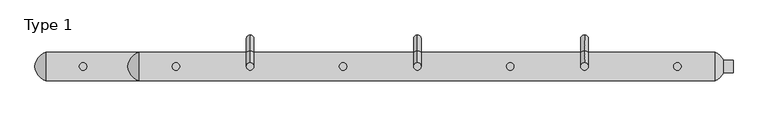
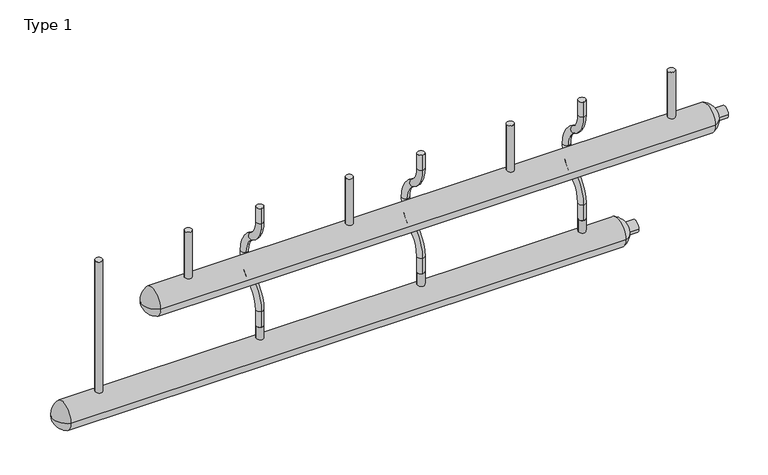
"""IFC4 building model written with IfcOpenShell, lengths in millimetres: proxy geometry, Collecteurs : Type 1."""

from ifc_helpers import new_model, si_unit, point, frame, frame_2d, origin, place, context, project, spatial, circle_curve, ellipse_curve, trimmed, segment, composite_curve, outline, extrude, source, transform, mapped, element, save
from ifc_brep_helpers import plane_surface, cylinder_surface, revolved_surface, advanced_brep


def type_1_87a1617b(model_context):
    return source(origin(), model_context, "Body", "SolidModel", [
        advanced_brep(
        [(-1131.9681284, 295.0, 950.0), (-1131.9681284, 255.0, 950.0), (-1131.9681284, 295.0, 1040.1923789), (-1131.9681284, 255.0, 1040.1923789), (-1131.9681284, 340.0, 1187.4166975), (-1131.9681284, 360.0, 1152.7756814), (-1131.9681284, 405.0, 1300.0), (-1131.9681284, 445.0, 1300.0), (-1131.9681284, 340.0, 1412.5833025), (-1131.9681284, 360.0, 1447.2243186), (-1131.9681284, 255.0, 1559.8076211), (-1131.9681284, 295.0, 1559.8076211), (-1131.9681284, 295.0, 1650.0), (-1131.9681284, 255.0, 1650.0)],
        [
            (0, 1, circle_curve(frame((-1131.9681284, 275.0, 950.0), z_axis=(0.0, 0.0, -1.0), x_axis=(0.0, -1.0, 0.0)), 20.0)),
            (1, 0, circle_curve(frame((-1131.9681284, 275.0, 950.0), z_axis=(0.0, 0.0, -1.0), x_axis=(0.0, -1.0, 0.0)), 20.0)),
            (0, 2),
            (2, 3, circle_curve(frame((-1131.9681284, 275.0, 1040.1923789), z_axis=(0.0, 0.0, -1.0), x_axis=(0.0, -1.0, 0.0)), 20.0)),
            (3, 1),
            (3, 2, circle_curve(frame((-1131.9681284, 275.0, 1040.1923789), z_axis=(0.0, 0.0, -1.0), x_axis=(0.0, -1.0, 0.0)), 20.0)),
            (4, 3, circle_curve(frame((-1131.9681284, 425.0, 1040.1923789), z_axis=(1.0, 0.0, 0.0), x_axis=(0.0, -1.0, 0.0)), 170.0)),
            (2, 5, circle_curve(frame((-1131.9681284, 425.0, 1040.1923789), z_axis=(-1.0, 0.0, 0.0), x_axis=(0.0, -1.0, 0.0)), 130.0)),
            (5, 4, circle_curve(frame((-1131.9681284, 350.0, 1170.0961894), z_axis=(0.0, -0.8660254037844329, -0.5000000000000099), x_axis=(0.0, -0.5000000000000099, 0.8660254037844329)), 20.0)),
            (4, 5, circle_curve(frame((-1131.9681284, 350.0, 1170.0961894), z_axis=(0.0, -0.8660254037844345, -0.5000000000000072), x_axis=(0.0, -0.5000000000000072, 0.8660254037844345)), 20.0)),
            (6, 4, circle_curve(frame((-1131.9681284, 275.0, 1300.0), z_axis=(-1.0, 0.0, 0.0), x_axis=(0.0, 0.4999999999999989, -0.8660254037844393)), 130.0)),
            (5, 7, circle_curve(frame((-1131.9681284, 275.0, 1300.0), z_axis=(1.0, 0.0, 0.0), x_axis=(0.0, 0.4999999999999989, -0.8660254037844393)), 170.0)),
            (7, 6, circle_curve(frame((-1131.9681284, 425.0, 1300.0), z_axis=(0.0, 0.0, -1.0), x_axis=(0.0, -1.0, 0.0)), 20.0)),
            (6, 7, circle_curve(frame((-1131.9681284, 425.0, 1300.0), z_axis=(0.0, 0.0, -1.0), x_axis=(0.0, -1.0, 0.0)), 20.0)),
            (8, 6, circle_curve(frame((-1131.9681284, 275.0, 1300.0), z_axis=(-1.0, 0.0, 0.0), x_axis=(0.0, 1.0, 0.0)), 130.0)),
            (7, 9, circle_curve(frame((-1131.9681284, 275.0, 1300.0), z_axis=(1.0, 0.0, 0.0), x_axis=(0.0, 1.0, 0.0)), 170.0)),
            (9, 8, circle_curve(frame((-1131.9681284, 350.0, 1429.9038106), z_axis=(0.0, 0.8660254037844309, -0.5000000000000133), x_axis=(0.0, -0.5000000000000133, -0.8660254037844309)), 20.0)),
            (8, 9, circle_curve(frame((-1131.9681284, 350.0, 1429.9038106), z_axis=(0.0, 0.8660254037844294, -0.500000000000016), x_axis=(0.0, -0.500000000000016, -0.8660254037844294)), 20.0)),
            (10, 8, circle_curve(frame((-1131.9681284, 425.0, 1559.8076211), z_axis=(1.0, 0.0, 0.0), x_axis=(0.0, -0.5000000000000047, -0.8660254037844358)), 170.0)),
            (9, 11, circle_curve(frame((-1131.9681284, 425.0, 1559.8076211), z_axis=(-1.0, 0.0, 0.0), x_axis=(0.0, -0.5000000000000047, -0.8660254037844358)), 130.0)),
            (11, 10, circle_curve(frame((-1131.9681284, 275.0, 1559.8076211), z_axis=(0.0, 0.0, -0.9999999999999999), x_axis=(0.0, -0.9999999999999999, 0.0)), 20.0)),
            (10, 11, circle_curve(frame((-1131.9681284, 275.0, 1559.8076211), z_axis=(0.0, 0.0, -0.9999999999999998), x_axis=(0.0, -0.9999999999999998, 0.0)), 20.0)),
            (12, 13, circle_curve(frame((-1131.9681284, 275.0, 1650.0), z_axis=(0.0, 0.0, 1.0), x_axis=(0.0, -1.0, 0.0)), 20.0)),
            (13, 12, circle_curve(frame((-1131.9681284, 275.0, 1650.0), z_axis=(0.0, 0.0, 1.0), x_axis=(0.0, -1.0, 0.0)), 20.0)),
            (11, 12),
            (13, 10),
        ],
        [
            plane_surface(frame((-1131.9681284, 275.0, 950.0), z_axis=(0.0, 0.0, -1.0), x_axis=(1.0, 0.0, 0.0))),
            cylinder_surface(frame((-1131.9681284, 275.0, 950.0), z_axis=(0.0, 0.0, -1.0), x_axis=(0.0, -1.0, 0.0)), 20.0),
            revolved_surface(trimmed(ellipse_curve(frame((-1131.9681284, 275.0, 1040.1923789), z_axis=(0.0, 0.0, -1.0), x_axis=(0.0, -1.0, 0.0)), 20.0, 20.0), [point((-1131.9681284, 295.0, 1040.1923789))], [point((-1131.9681284, 255.0, 1040.1923789))], True, "CARTESIAN"), (-1131.9681284, 425.0, 1040.1923789), (-1.0, 0.0, 0.0)),
            revolved_surface(trimmed(ellipse_curve(frame((-1131.9681284, 275.0, 1040.1923789), z_axis=(0.0, 0.0, -1.0), x_axis=(0.0, -1.0, 0.0)), 20.0, 20.0), [point((-1131.9681284, 255.0, 1040.1923789))], [point((-1131.9681284, 295.0, 1040.1923789))], True, "CARTESIAN"), (-1131.9681284, 425.0, 1040.1923789), (-1.0, 0.0, 0.0)),
            revolved_surface(trimmed(ellipse_curve(frame((-1131.9681284, 350.0, 1170.0961894), z_axis=(0.0, -0.8660254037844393, -0.4999999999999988), x_axis=(0.0, -0.4999999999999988, 0.8660254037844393)), 20.0, 20.0), [point((-1131.9681284, 360.0, 1152.7756814))], [point((-1131.9681284, 340.0, 1187.4166975))], True, "CARTESIAN"), (-1131.9681284, 275.0, 1300.0), (1.0, 0.0, 0.0)),
            revolved_surface(trimmed(ellipse_curve(frame((-1131.9681284, 350.0, 1170.0961894), z_axis=(0.0, -0.8660254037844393, -0.4999999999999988), x_axis=(0.0, -0.4999999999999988, 0.8660254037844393)), 20.0, 20.0), [point((-1131.9681284, 340.0, 1187.4166975))], [point((-1131.9681284, 360.0, 1152.7756814))], True, "CARTESIAN"), (-1131.9681284, 275.0, 1300.0), (1.0, 0.0, 0.0)),
            revolved_surface(trimmed(ellipse_curve(frame((-1131.9681284, 425.0, 1300.0), z_axis=(0.0, 0.0, -1.0), x_axis=(0.0, -1.0, 0.0)), 20.0, 20.0), [point((-1131.9681284, 445.0, 1300.0))], [point((-1131.9681284, 405.0, 1300.0))], True, "CARTESIAN"), (-1131.9681284, 275.0, 1300.0), (1.0, 0.0, 0.0)),
            revolved_surface(trimmed(ellipse_curve(frame((-1131.9681284, 425.0, 1300.0), z_axis=(0.0, 0.0, -1.0), x_axis=(0.0, -1.0, 0.0)), 20.0, 20.0), [point((-1131.9681284, 405.0, 1300.0))], [point((-1131.9681284, 445.0, 1300.0))], True, "CARTESIAN"), (-1131.9681284, 275.0, 1300.0), (1.0, 0.0, 0.0)),
            revolved_surface(trimmed(ellipse_curve(frame((-1131.9681284, 350.0, 1429.9038106), z_axis=(0.0, 0.8660254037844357, -0.5000000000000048), x_axis=(0.0, -0.5000000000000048, -0.8660254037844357)), 20.0, 20.0), [point((-1131.9681284, 360.0, 1447.2243186))], [point((-1131.9681284, 340.0, 1412.5833025))], True, "CARTESIAN"), (-1131.9681284, 425.0, 1559.8076211), (-1.0, 0.0, 0.0)),
            revolved_surface(trimmed(ellipse_curve(frame((-1131.9681284, 350.0, 1429.9038106), z_axis=(0.0, 0.8660254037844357, -0.5000000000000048), x_axis=(0.0, -0.5000000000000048, -0.8660254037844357)), 20.0, 20.0), [point((-1131.9681284, 340.0, 1412.5833025))], [point((-1131.9681284, 360.0, 1447.2243186))], True, "CARTESIAN"), (-1131.9681284, 425.0, 1559.8076211), (-1.0, 0.0, 0.0)),
            plane_surface(frame((-1131.9681284, 275.0, 1650.0), z_axis=(0.0, 0.0, 1.0), x_axis=(1.0, 0.0, 0.0))),
            cylinder_surface(frame((-1131.9681284, 275.0, 1559.8076211), z_axis=(0.0, 0.0, -1.0), x_axis=(0.0, -1.0, 0.0)), 20.0),
        ],
        [
            (0, [[1, 2]]),
            (1, [[-1, 3, 4, 5]]),
            (1, [[-2, -5, 6, -3]]),
            (2, [[7, -4, 8, 9]]),
            (3, [[-8, -6, -7, 10]]),
            (4, [[11, -9, 12, 13]]),
            (5, [[-12, -10, -11, 14]]),
            (6, [[15, -13, 16, 17]]),
            (7, [[-16, -14, -15, 18]]),
            (8, [[19, -17, 20, 21]]),
            (9, [[-20, -18, -19, 22]]),
            (10, [[23, 24]]),
            (11, [[-21, 25, -24, 26]]),
            (11, [[-22, -26, -23, -25]]),
        ],
    ),
        advanced_brep(
        [(-231.9681284, 295.0, 950.0), (-231.9681284, 255.0, 950.0), (-231.9681284, 295.0, 1040.1923789), (-231.9681284, 255.0, 1040.1923789), (-231.9681284, 340.0, 1187.4166975), (-231.9681284, 360.0, 1152.7756814), (-231.9681284, 405.0, 1300.0), (-231.9681284, 445.0, 1300.0), (-231.9681284, 340.0, 1412.5833025), (-231.9681284, 360.0, 1447.2243186), (-231.9681284, 255.0, 1559.8076211), (-231.9681284, 295.0, 1559.8076211), (-231.9681284, 295.0, 1650.0), (-231.9681284, 255.0, 1650.0)],
        [
            (0, 1, circle_curve(frame((-231.9681284, 275.0, 950.0), z_axis=(0.0, 0.0, -1.0), x_axis=(0.0, -1.0, 0.0)), 20.0)),
            (1, 0, circle_curve(frame((-231.9681284, 275.0, 950.0), z_axis=(0.0, 0.0, -1.0), x_axis=(0.0, -1.0, 0.0)), 20.0)),
            (0, 2),
            (2, 3, circle_curve(frame((-231.9681284, 275.0, 1040.1923789), z_axis=(0.0, 0.0, -1.0), x_axis=(0.0, -1.0, 0.0)), 20.0)),
            (3, 1),
            (3, 2, circle_curve(frame((-231.9681284, 275.0, 1040.1923789), z_axis=(0.0, 0.0, -1.0), x_axis=(0.0, -1.0, 0.0)), 20.0)),
            (4, 3, circle_curve(frame((-231.9681284, 425.0, 1040.1923789), z_axis=(1.0, 0.0, 0.0), x_axis=(0.0, -1.0, 0.0)), 170.0)),
            (2, 5, circle_curve(frame((-231.9681284, 425.0, 1040.1923789), z_axis=(-1.0, 0.0, 0.0), x_axis=(0.0, -1.0, 0.0)), 130.0)),
            (5, 4, circle_curve(frame((-231.9681284, 350.0, 1170.0961894), z_axis=(0.0, -0.8660254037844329, -0.5000000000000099), x_axis=(0.0, -0.5000000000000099, 0.8660254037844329)), 20.0)),
            (4, 5, circle_curve(frame((-231.9681284, 350.0, 1170.0961894), z_axis=(0.0, -0.8660254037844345, -0.5000000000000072), x_axis=(0.0, -0.5000000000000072, 0.8660254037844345)), 20.0)),
            (6, 4, circle_curve(frame((-231.9681284, 275.0, 1300.0), z_axis=(-1.0, 0.0, 0.0), x_axis=(0.0, 0.4999999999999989, -0.8660254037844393)), 130.0)),
            (5, 7, circle_curve(frame((-231.9681284, 275.0, 1300.0), z_axis=(1.0, 0.0, 0.0), x_axis=(0.0, 0.4999999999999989, -0.8660254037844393)), 170.0)),
            (7, 6, circle_curve(frame((-231.9681284, 425.0, 1300.0), z_axis=(0.0, 0.0, -1.0), x_axis=(0.0, -1.0, 0.0)), 20.0)),
            (6, 7, circle_curve(frame((-231.9681284, 425.0, 1300.0), z_axis=(0.0, 0.0, -1.0), x_axis=(0.0, -1.0, 0.0)), 20.0)),
            (8, 6, circle_curve(frame((-231.9681284, 275.0, 1300.0), z_axis=(-1.0, 0.0, 0.0), x_axis=(0.0, 1.0, 0.0)), 130.0)),
            (7, 9, circle_curve(frame((-231.9681284, 275.0, 1300.0), z_axis=(1.0, 0.0, 0.0), x_axis=(0.0, 1.0, 0.0)), 170.0)),
            (9, 8, circle_curve(frame((-231.9681284, 350.0, 1429.9038106), z_axis=(0.0, 0.8660254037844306, -0.5000000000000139), x_axis=(0.0, -0.5000000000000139, -0.8660254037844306)), 20.0)),
            (8, 9, circle_curve(frame((-231.9681284, 350.0, 1429.9038106), z_axis=(0.0, 0.8660254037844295, -0.5000000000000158), x_axis=(0.0, -0.5000000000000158, -0.8660254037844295)), 20.0)),
            (10, 8, circle_curve(frame((-231.9681284, 425.0, 1559.8076211), z_axis=(1.0, 0.0, 0.0), x_axis=(0.0, -0.5000000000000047, -0.8660254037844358)), 170.0)),
            (9, 11, circle_curve(frame((-231.9681284, 425.0, 1559.8076211), z_axis=(-1.0, 0.0, 0.0), x_axis=(0.0, -0.5000000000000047, -0.8660254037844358)), 130.0)),
            (11, 10, circle_curve(frame((-231.9681284, 275.0, 1559.8076211), z_axis=(0.0, 0.0, -0.9999999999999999), x_axis=(0.0, -0.9999999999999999, 0.0)), 20.0)),
            (10, 11, circle_curve(frame((-231.9681284, 275.0, 1559.8076211), z_axis=(0.0, 0.0, -0.9999999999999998), x_axis=(0.0, -0.9999999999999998, 0.0)), 20.0)),
            (12, 13, circle_curve(frame((-231.9681284, 275.0, 1650.0), z_axis=(0.0, 0.0, 1.0), x_axis=(0.0, -1.0, 0.0)), 20.0)),
            (13, 12, circle_curve(frame((-231.9681284, 275.0, 1650.0), z_axis=(0.0, 0.0, 1.0), x_axis=(0.0, -1.0, 0.0)), 20.0)),
            (11, 12),
            (13, 10),
        ],
        [
            plane_surface(frame((-231.9681284, 275.0, 950.0), z_axis=(0.0, 0.0, -1.0), x_axis=(1.0, 0.0, 0.0))),
            cylinder_surface(frame((-231.9681284, 275.0, 950.0), z_axis=(0.0, 0.0, -1.0), x_axis=(0.0, -1.0, 0.0)), 20.0),
            revolved_surface(trimmed(ellipse_curve(frame((-231.9681284, 275.0, 1040.1923789), z_axis=(0.0, 0.0, -1.0), x_axis=(0.0, -1.0, 0.0)), 20.0, 20.0), [point((-231.9681284, 295.0, 1040.1923789))], [point((-231.9681284, 255.0, 1040.1923789))], True, "CARTESIAN"), (-231.9681284, 425.0, 1040.1923789), (-1.0, 0.0, 0.0)),
            revolved_surface(trimmed(ellipse_curve(frame((-231.9681284, 275.0, 1040.1923789), z_axis=(0.0, 0.0, -1.0), x_axis=(0.0, -1.0, 0.0)), 20.0, 20.0), [point((-231.9681284, 255.0, 1040.1923789))], [point((-231.9681284, 295.0, 1040.1923789))], True, "CARTESIAN"), (-231.9681284, 425.0, 1040.1923789), (-1.0, 0.0, 0.0)),
            revolved_surface(trimmed(ellipse_curve(frame((-231.9681284, 350.0, 1170.0961894), z_axis=(0.0, -0.8660254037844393, -0.4999999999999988), x_axis=(0.0, -0.4999999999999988, 0.8660254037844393)), 20.0, 20.0), [point((-231.9681284, 360.0, 1152.7756814))], [point((-231.9681284, 340.0, 1187.4166975))], True, "CARTESIAN"), (-231.9681284, 275.0, 1300.0), (1.0, 0.0, 0.0)),
            revolved_surface(trimmed(ellipse_curve(frame((-231.9681284, 350.0, 1170.0961894), z_axis=(0.0, -0.8660254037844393, -0.4999999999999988), x_axis=(0.0, -0.4999999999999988, 0.8660254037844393)), 20.0, 20.0), [point((-231.9681284, 340.0, 1187.4166975))], [point((-231.9681284, 360.0, 1152.7756814))], True, "CARTESIAN"), (-231.9681284, 275.0, 1300.0), (1.0, 0.0, 0.0)),
            revolved_surface(trimmed(ellipse_curve(frame((-231.9681284, 425.0, 1300.0), z_axis=(0.0, 0.0, -1.0), x_axis=(0.0, -1.0, 0.0)), 20.0, 20.0), [point((-231.9681284, 445.0, 1300.0))], [point((-231.9681284, 405.0, 1300.0))], True, "CARTESIAN"), (-231.9681284, 275.0, 1300.0), (1.0, 0.0, 0.0)),
            revolved_surface(trimmed(ellipse_curve(frame((-231.9681284, 425.0, 1300.0), z_axis=(0.0, 0.0, -1.0), x_axis=(0.0, -1.0, 0.0)), 20.0, 20.0), [point((-231.9681284, 405.0, 1300.0))], [point((-231.9681284, 445.0, 1300.0))], True, "CARTESIAN"), (-231.9681284, 275.0, 1300.0), (1.0, 0.0, 0.0)),
            revolved_surface(trimmed(ellipse_curve(frame((-231.9681284, 350.0, 1429.9038106), z_axis=(0.0, 0.8660254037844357, -0.5000000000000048), x_axis=(0.0, -0.5000000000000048, -0.8660254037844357)), 20.0, 20.0), [point((-231.9681284, 360.0, 1447.2243186))], [point((-231.9681284, 340.0, 1412.5833025))], True, "CARTESIAN"), (-231.9681284, 425.0, 1559.8076211), (-1.0, 0.0, 0.0)),
            revolved_surface(trimmed(ellipse_curve(frame((-231.9681284, 350.0, 1429.9038106), z_axis=(0.0, 0.8660254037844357, -0.5000000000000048), x_axis=(0.0, -0.5000000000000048, -0.8660254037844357)), 20.0, 20.0), [point((-231.9681284, 340.0, 1412.5833025))], [point((-231.9681284, 360.0, 1447.2243186))], True, "CARTESIAN"), (-231.9681284, 425.0, 1559.8076211), (-1.0, 0.0, 0.0)),
            plane_surface(frame((-231.9681284, 275.0, 1650.0), z_axis=(0.0, 0.0, 1.0), x_axis=(1.0, 0.0, 0.0))),
            cylinder_surface(frame((-231.9681284, 275.0, 1559.8076211), z_axis=(0.0, 0.0, -1.0), x_axis=(0.0, -1.0, 0.0)), 20.0),
        ],
        [
            (0, [[1, 2]]),
            (1, [[-1, 3, 4, 5]]),
            (1, [[-2, -5, 6, -3]]),
            (2, [[7, -4, 8, 9]]),
            (3, [[-8, -6, -7, 10]]),
            (4, [[11, -9, 12, 13]]),
            (5, [[-12, -10, -11, 14]]),
            (6, [[15, -13, 16, 17]]),
            (7, [[-16, -14, -15, 18]]),
            (8, [[19, -17, 20, 21]]),
            (9, [[-20, -18, -19, 22]]),
            (10, [[23, 24]]),
            (11, [[-21, 25, -24, 26]]),
            (11, [[-22, -26, -23, -25]]),
        ],
    ),
        advanced_brep(
        [(668.0318716, 295.0, 950.0), (668.0318716, 255.0, 950.0), (668.0318716, 295.0, 1040.1923789), (668.0318716, 255.0, 1040.1923789), (668.0318716, 340.0, 1187.4166975), (668.0318716, 360.0, 1152.7756814), (668.0318716, 405.0, 1300.0), (668.0318716, 445.0, 1300.0), (668.0318716, 340.0, 1412.5833025), (668.0318716, 360.0, 1447.2243186), (668.0318716, 255.0, 1559.8076211), (668.0318716, 295.0, 1559.8076211), (668.0318716, 295.0, 1650.0), (668.0318716, 255.0, 1650.0)],
        [
            (0, 1, circle_curve(frame((668.0318716, 275.0, 950.0), z_axis=(0.0, 0.0, -1.0), x_axis=(0.0, -1.0, 0.0)), 20.0)),
            (1, 0, circle_curve(frame((668.0318716, 275.0, 950.0), z_axis=(0.0, 0.0, -1.0), x_axis=(0.0, -1.0, 0.0)), 20.0)),
            (0, 2),
            (2, 3, circle_curve(frame((668.0318716, 275.0, 1040.1923789), z_axis=(0.0, 0.0, -1.0), x_axis=(0.0, -1.0, 0.0)), 20.0)),
            (3, 1),
            (3, 2, circle_curve(frame((668.0318716, 275.0, 1040.1923789), z_axis=(0.0, 0.0, -1.0), x_axis=(0.0, -1.0, 0.0)), 20.0)),
            (4, 3, circle_curve(frame((668.0318716, 425.0, 1040.1923789), z_axis=(1.0, 0.0, 0.0), x_axis=(0.0, -1.0, 0.0)), 170.0)),
            (2, 5, circle_curve(frame((668.0318716, 425.0, 1040.1923789), z_axis=(-1.0, 0.0, 0.0), x_axis=(0.0, -1.0, 0.0)), 130.0)),
            (5, 4, circle_curve(frame((668.0318716, 350.0, 1170.0961894), z_axis=(0.0, -0.8660254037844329, -0.5000000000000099), x_axis=(0.0, -0.5000000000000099, 0.8660254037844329)), 20.0)),
            (4, 5, circle_curve(frame((668.0318716, 350.0, 1170.0961894), z_axis=(0.0, -0.8660254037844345, -0.5000000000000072), x_axis=(0.0, -0.5000000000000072, 0.8660254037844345)), 20.0)),
            (6, 4, circle_curve(frame((668.0318716, 275.0, 1300.0), z_axis=(-1.0, 0.0, 0.0), x_axis=(0.0, 0.4999999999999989, -0.8660254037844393)), 130.0)),
            (5, 7, circle_curve(frame((668.0318716, 275.0, 1300.0), z_axis=(1.0, 0.0, 0.0), x_axis=(0.0, 0.4999999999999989, -0.8660254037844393)), 170.0)),
            (7, 6, circle_curve(frame((668.0318716, 425.0, 1300.0), z_axis=(0.0, 0.0, -1.0), x_axis=(0.0, -1.0, 0.0)), 20.0)),
            (6, 7, circle_curve(frame((668.0318716, 425.0, 1300.0), z_axis=(0.0, 0.0, -1.0), x_axis=(0.0, -1.0, 0.0)), 20.0)),
            (8, 6, circle_curve(frame((668.0318716, 275.0, 1300.0), z_axis=(-1.0, 0.0, 0.0), x_axis=(0.0, 1.0, 0.0)), 130.0)),
            (7, 9, circle_curve(frame((668.0318716, 275.0, 1300.0), z_axis=(1.0, 0.0, 0.0), x_axis=(0.0, 1.0, 0.0)), 170.0)),
            (9, 8, circle_curve(frame((668.0318716, 350.0, 1429.9038106), z_axis=(0.0, 0.8660254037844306, -0.5000000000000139), x_axis=(0.0, -0.5000000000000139, -0.8660254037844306)), 20.0)),
            (8, 9, circle_curve(frame((668.0318716, 350.0, 1429.9038106), z_axis=(0.0, 0.8660254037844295, -0.5000000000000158), x_axis=(0.0, -0.5000000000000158, -0.8660254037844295)), 20.0)),
            (10, 8, circle_curve(frame((668.0318716, 425.0, 1559.8076211), z_axis=(1.0, 0.0, 0.0), x_axis=(0.0, -0.5000000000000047, -0.8660254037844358)), 170.0)),
            (9, 11, circle_curve(frame((668.0318716, 425.0, 1559.8076211), z_axis=(-1.0, 0.0, 0.0), x_axis=(0.0, -0.5000000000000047, -0.8660254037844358)), 130.0)),
            (11, 10, circle_curve(frame((668.0318716, 275.0, 1559.8076211), z_axis=(0.0, 0.0, -0.9999999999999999), x_axis=(0.0, -0.9999999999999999, 0.0)), 20.0)),
            (10, 11, circle_curve(frame((668.0318716, 275.0, 1559.8076211), z_axis=(0.0, 0.0, -0.9999999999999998), x_axis=(0.0, -0.9999999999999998, 0.0)), 20.0)),
            (12, 13, circle_curve(frame((668.0318716, 275.0, 1650.0), z_axis=(0.0, 0.0, 1.0), x_axis=(0.0, -1.0, 0.0)), 20.0)),
            (13, 12, circle_curve(frame((668.0318716, 275.0, 1650.0), z_axis=(0.0, 0.0, 1.0), x_axis=(0.0, -1.0, 0.0)), 20.0)),
            (11, 12),
            (13, 10),
        ],
        [
            plane_surface(frame((668.0318716, 275.0, 950.0), z_axis=(0.0, 0.0, -1.0), x_axis=(1.0, 0.0, 0.0))),
            cylinder_surface(frame((668.0318716, 275.0, 950.0), z_axis=(0.0, 0.0, -1.0), x_axis=(0.0, -1.0, 0.0)), 20.0),
            revolved_surface(trimmed(ellipse_curve(frame((668.0318716, 275.0, 1040.1923789), z_axis=(0.0, 0.0, -1.0), x_axis=(0.0, -1.0, 0.0)), 20.0, 20.0), [point((668.0318716, 295.0, 1040.1923789))], [point((668.0318716, 255.0, 1040.1923789))], True, "CARTESIAN"), (668.0318716, 425.0, 1040.1923789), (-1.0, 0.0, 0.0)),
            revolved_surface(trimmed(ellipse_curve(frame((668.0318716, 275.0, 1040.1923789), z_axis=(0.0, 0.0, -1.0), x_axis=(0.0, -1.0, 0.0)), 20.0, 20.0), [point((668.0318716, 255.0, 1040.1923789))], [point((668.0318716, 295.0, 1040.1923789))], True, "CARTESIAN"), (668.0318716, 425.0, 1040.1923789), (-1.0, 0.0, 0.0)),
            revolved_surface(trimmed(ellipse_curve(frame((668.0318716, 350.0, 1170.0961894), z_axis=(0.0, -0.8660254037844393, -0.4999999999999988), x_axis=(0.0, -0.4999999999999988, 0.8660254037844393)), 20.0, 20.0), [point((668.0318716, 360.0, 1152.7756814))], [point((668.0318716, 340.0, 1187.4166975))], True, "CARTESIAN"), (668.0318716, 275.0, 1300.0), (1.0, 0.0, 0.0)),
            revolved_surface(trimmed(ellipse_curve(frame((668.0318716, 350.0, 1170.0961894), z_axis=(0.0, -0.8660254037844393, -0.4999999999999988), x_axis=(0.0, -0.4999999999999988, 0.8660254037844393)), 20.0, 20.0), [point((668.0318716, 340.0, 1187.4166975))], [point((668.0318716, 360.0, 1152.7756814))], True, "CARTESIAN"), (668.0318716, 275.0, 1300.0), (1.0, 0.0, 0.0)),
            revolved_surface(trimmed(ellipse_curve(frame((668.0318716, 425.0, 1300.0), z_axis=(0.0, 0.0, -1.0), x_axis=(0.0, -1.0, 0.0)), 20.0, 20.0), [point((668.0318716, 445.0, 1300.0))], [point((668.0318716, 405.0, 1300.0))], True, "CARTESIAN"), (668.0318716, 275.0, 1300.0), (1.0, 0.0, 0.0)),
            revolved_surface(trimmed(ellipse_curve(frame((668.0318716, 425.0, 1300.0), z_axis=(0.0, 0.0, -1.0), x_axis=(0.0, -1.0, 0.0)), 20.0, 20.0), [point((668.0318716, 405.0, 1300.0))], [point((668.0318716, 445.0, 1300.0))], True, "CARTESIAN"), (668.0318716, 275.0, 1300.0), (1.0, 0.0, 0.0)),
            revolved_surface(trimmed(ellipse_curve(frame((668.0318716, 350.0, 1429.9038106), z_axis=(0.0, 0.8660254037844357, -0.5000000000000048), x_axis=(0.0, -0.5000000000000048, -0.8660254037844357)), 20.0, 20.0), [point((668.0318716, 360.0, 1447.2243186))], [point((668.0318716, 340.0, 1412.5833025))], True, "CARTESIAN"), (668.0318716, 425.0, 1559.8076211), (-1.0, 0.0, 0.0)),
            revolved_surface(trimmed(ellipse_curve(frame((668.0318716, 350.0, 1429.9038106), z_axis=(0.0, 0.8660254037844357, -0.5000000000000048), x_axis=(0.0, -0.5000000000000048, -0.8660254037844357)), 20.0, 20.0), [point((668.0318716, 340.0, 1412.5833025))], [point((668.0318716, 360.0, 1447.2243186))], True, "CARTESIAN"), (668.0318716, 425.0, 1559.8076211), (-1.0, 0.0, 0.0)),
            plane_surface(frame((668.0318716, 275.0, 1650.0), z_axis=(0.0, 0.0, 1.0), x_axis=(1.0, 0.0, 0.0))),
            cylinder_surface(frame((668.0318716, 275.0, 1559.8076211), z_axis=(0.0, 0.0, -1.0), x_axis=(0.0, -1.0, 0.0)), 20.0),
        ],
        [
            (0, [[1, 2]]),
            (1, [[-1, 3, 4, 5]]),
            (1, [[-2, -5, 6, -3]]),
            (2, [[7, -4, 8, 9]]),
            (3, [[-8, -6, -7, 10]]),
            (4, [[11, -9, 12, 13]]),
            (5, [[-12, -10, -11, 14]]),
            (6, [[15, -13, 16, 17]]),
            (7, [[-16, -14, -15, 18]]),
            (8, [[19, -17, 20, 21]]),
            (9, [[-20, -18, -19, 22]]),
            (10, [[23, 24]]),
            (11, [[-21, 25, -24, 26]]),
            (11, [[-22, -26, -23, -25]]),
        ],
    ),
        extrude(outline(composite_curve([segment(trimmed(circle_curve(frame_2d((-2031.9681284, 275.0)), 20.0), [point((-2051.9681284, 275.0))], [point((-2011.9681284, 275.0))], False, "CARTESIAN"), True, "CONTINUOUS"), segment(trimmed(circle_curve(frame_2d((-2031.9681284, 275.0)), 20.0), [point((-2011.9681284, 275.0))], [point((-2051.9681284, 275.0))], False, "CARTESIAN"), True, "CONTINUOUS")], self_intersect=False)), frame((0.0, 0.0, 800.0), z_axis=(0.0, 0.0, 1.0), x_axis=(1.0, 0.0, 0.0)), (0.0, 0.0, 1.0), 850.0),
        extrude(outline(composite_curve([segment(trimmed(circle_curve(frame_2d((-1131.9681284, 275.0)), 20.0), [point((-1151.9681284, 275.0))], [point((-1111.9681284, 275.0))], False, "CARTESIAN"), True, "CONTINUOUS"), segment(trimmed(circle_curve(frame_2d((-1131.9681284, 275.0)), 20.0), [point((-1111.9681284, 275.0))], [point((-1151.9681284, 275.0))], False, "CARTESIAN"), True, "CONTINUOUS")], self_intersect=False)), frame((0.0, 0.0, 800.0), z_axis=(0.0, 0.0, 1.0), x_axis=(1.0, 0.0, 0.0)), (0.0, 0.0, 1.0), 150.0),
        extrude(outline(composite_curve([segment(trimmed(circle_curve(frame_2d((-231.9681284, 275.0)), 20.0), [point((-251.9681284, 275.0))], [point((-211.9681284, 275.0))], False, "CARTESIAN"), True, "CONTINUOUS"), segment(trimmed(circle_curve(frame_2d((-231.9681284, 275.0)), 20.0), [point((-211.9681284, 275.0))], [point((-251.9681284, 275.0))], False, "CARTESIAN"), True, "CONTINUOUS")], self_intersect=False)), frame((0.0, 0.0, 800.0), z_axis=(0.0, 0.0, 1.0), x_axis=(1.0, 0.0, 0.0)), (0.0, 0.0, 1.0), 150.0),
        extrude(outline(composite_curve([segment(trimmed(circle_curve(frame_2d((668.0318716, 275.0)), 20.0), [point((648.0318716, 275.0))], [point((688.0318716, 275.0))], False, "CARTESIAN"), True, "CONTINUOUS"), segment(trimmed(circle_curve(frame_2d((668.0318716, 275.0)), 20.0), [point((688.0318716, 275.0))], [point((648.0318716, 275.0))], False, "CARTESIAN"), True, "CONTINUOUS")], self_intersect=False)), frame((0.0, 0.0, 800.0), z_axis=(0.0, 0.0, 1.0), x_axis=(1.0, 0.0, 0.0)), (0.0, 0.0, 1.0), 150.0),
        advanced_brep(
        [(868.0318716, 352.6034576, 800.0), (868.0318716, 197.3965424, 800.0), (-2229.5858558, 197.3965424, 800.0), (-2229.5858558, 352.6034576, 800.0), (916.6951882, 307.5, 800.0), (916.6951882, 242.5, 800.0), (-2291.0538729, 275.0, 800.0), (968.0318716, 307.5, 800.0), (968.0318716, 242.5, 800.0), (968.0318716, 275.0, 800.0)],
        [
            (0, 1, circle_curve(frame((868.0318716, 275.0, 800.0), z_axis=(-1.0, 0.0, 0.0), x_axis=(0.0, -1.0, 0.0)), 77.6034576)),
            (1, 2),
            (2, 3, circle_curve(frame((-2229.5858558, 275.0, 800.0), z_axis=(1.0, 0.0, 0.0), x_axis=(0.0, -1.0, 0.0)), 77.6034576)),
            (3, 0),
            (1, 0, circle_curve(frame((868.0318716, 275.0, 800.0), z_axis=(-1.0, 0.0, 0.0), x_axis=(0.0, -1.0, 0.0)), 77.6034576)),
            (3, 2, circle_curve(frame((-2229.5858558, 275.0, 800.0), z_axis=(1.0, 0.0, 0.0), x_axis=(0.0, -1.0, 0.0)), 77.6034576)),
            (4, 5, circle_curve(frame((916.6951882, 275.0, 800.0), z_axis=(-1.0, 0.0, 0.0), x_axis=(0.0, -1.0, 0.0)), 32.5)),
            (5, 1, circle_curve(frame((835.9876873, 280.7736629, 800.0), z_axis=(0.0, 0.0, -1.0), x_axis=(1.0, 0.0, 0.0)), 89.3228636)),
            (0, 4, circle_curve(frame((835.9876873, 269.2263371, 800.0), z_axis=(0.0, 0.0, -1.0), x_axis=(1.0, 0.0, 0.0)), 89.3228636)),
            (5, 4, circle_curve(frame((916.6951882, 275.0, 800.0), z_axis=(-1.0, 0.0, 0.0), x_axis=(0.0, -1.0, 0.0)), 32.5)),
            (2, 6, circle_curve(frame((-2202.0351101, 282.3643621, 800.0), z_axis=(0.0, 0.0, -1.0), x_axis=(-1.0, 0.0, 0.0)), 89.3228636)),
            (6, 3, circle_curve(frame((-2202.0351101, 267.6356379, 800.0), z_axis=(0.0, 0.0, -1.0), x_axis=(-1.0, 0.0, 0.0)), 89.3228636)),
            (7, 8, circle_curve(frame((968.0318716, 275.0, 800.0), z_axis=(-1.0, 0.0, 0.0), x_axis=(0.0, -1.0, 0.0)), 32.5)),
            (8, 5),
            (4, 7),
            (8, 7, circle_curve(frame((968.0318716, 275.0, 800.0), z_axis=(-1.0, 0.0, 0.0), x_axis=(0.0, -1.0, 0.0)), 32.5)),
            (9, 8),
            (7, 9),
        ],
        [
            cylinder_surface(frame((991.7950227, 275.0, 800.0), z_axis=(1.0, 0.0, 0.0), x_axis=(0.0, -1.0, 0.0)), 77.6034576),
            revolved_surface(trimmed(ellipse_curve(frame((835.9876873, 280.7736629, 800.0), z_axis=(0.0, 0.0, 1.0), x_axis=(1.0, 0.0, 0.0)), 89.3228636, 89.3228636), [point((868.0318716, 197.3965424, 800.0))], [point((916.6951882, 242.5, 800.0))], True, "CARTESIAN"), (991.7950227, 275.0, 800.0), (1.0, 0.0, 0.0)),
            revolved_surface(trimmed(ellipse_curve(frame((-2202.0351101, 282.3643621, 800.0), z_axis=(0.0, 0.0, 1.0), x_axis=(-1.0, 0.0, 0.0)), 89.3228636, 89.3228636), [point((-2291.0538729, 275.0, 800.0))], [point((-2229.5858558, 197.3965424, 800.0))], True, "CARTESIAN"), (991.7950227, 275.0, 800.0), (1.0, 0.0, 0.0)),
            cylinder_surface(frame((991.7950227, 275.0, 800.0), z_axis=(1.0, 0.0, 0.0), x_axis=(0.0, -1.0, 0.0)), 32.5),
            plane_surface(frame((968.0318716, 275.0, 800.0), z_axis=(1.0, 0.0, 0.0), x_axis=(0.0, -1.0, 0.0))),
        ],
        [
            (0, [[1, 2, 3, 4]]),
            (0, [[5, -4, 6, -2]]),
            (1, [[7, 8, -1, 9]]),
            (1, [[10, -9, -5, -8]]),
            (2, [[-3, 11, 12]]),
            (2, [[-6, -12, -11]]),
            (3, [[13, 14, -7, 15]]),
            (3, [[16, -15, -10, -14]]),
            (4, [[17, -13, 18]]),
            (4, [[-18, -16, -17]]),
        ],
    ),
        advanced_brep(
        [(1368.0318716, 352.6034576, 1300.0), (1368.0318716, 197.3965424, 1300.0), (-1729.5858558, 197.3965424, 1300.0), (-1729.5858558, 352.6034576, 1300.0), (1416.6951882, 307.5, 1300.0), (1416.6951882, 242.5, 1300.0), (-1791.0538729, 275.0, 1300.0), (1468.0318716, 307.5, 1300.0), (1468.0318716, 242.5, 1300.0), (1468.0318716, 275.0, 1300.0)],
        [
            (0, 1, circle_curve(frame((1368.0318716, 275.0, 1300.0), z_axis=(-1.0, 0.0, 0.0), x_axis=(0.0, -1.0, 0.0)), 77.6034576)),
            (1, 2),
            (2, 3, circle_curve(frame((-1729.5858558, 275.0, 1300.0), z_axis=(1.0, 0.0, 0.0), x_axis=(0.0, -1.0, 0.0)), 77.6034576)),
            (3, 0),
            (1, 0, circle_curve(frame((1368.0318716, 275.0, 1300.0), z_axis=(-1.0, 0.0, 0.0), x_axis=(0.0, -1.0, 0.0)), 77.6034576)),
            (3, 2, circle_curve(frame((-1729.5858558, 275.0, 1300.0), z_axis=(1.0, 0.0, 0.0), x_axis=(0.0, -1.0, 0.0)), 77.6034576)),
            (4, 5, circle_curve(frame((1416.6951882, 275.0, 1300.0), z_axis=(-1.0, 0.0, 0.0), x_axis=(0.0, -1.0, 0.0)), 32.5)),
            (5, 1, circle_curve(frame((1335.9876873, 280.7736629, 1300.0), z_axis=(0.0, 0.0, -1.0), x_axis=(1.0, 0.0, 0.0)), 89.3228636)),
            (0, 4, circle_curve(frame((1335.9876873, 269.2263371, 1300.0), z_axis=(0.0, 0.0, -1.0), x_axis=(1.0, 0.0, 0.0)), 89.3228636)),
            (5, 4, circle_curve(frame((1416.6951882, 275.0, 1300.0), z_axis=(-1.0, 0.0, 0.0), x_axis=(0.0, -1.0, 0.0)), 32.5)),
            (2, 6, circle_curve(frame((-1702.0351101, 282.3643621, 1300.0), z_axis=(0.0, 0.0, -1.0), x_axis=(-1.0, 0.0, 0.0)), 89.3228636)),
            (6, 3, circle_curve(frame((-1702.0351101, 267.6356379, 1300.0), z_axis=(0.0, 0.0, -1.0), x_axis=(-1.0, 0.0, 0.0)), 89.3228636)),
            (7, 8, circle_curve(frame((1468.0318716, 275.0, 1300.0), z_axis=(-1.0, 0.0, 0.0), x_axis=(0.0, -1.0, 0.0)), 32.5)),
            (8, 5),
            (4, 7),
            (8, 7, circle_curve(frame((1468.0318716, 275.0, 1300.0), z_axis=(-1.0, 0.0, 0.0), x_axis=(0.0, -1.0, 0.0)), 32.5)),
            (9, 8),
            (7, 9),
        ],
        [
            cylinder_surface(frame((1491.7950227, 275.0, 1300.0), z_axis=(1.0, 0.0, 0.0), x_axis=(0.0, -1.0, 0.0)), 77.6034576),
            revolved_surface(trimmed(ellipse_curve(frame((1335.9876873, 280.7736629, 1300.0), z_axis=(0.0, 0.0, 1.0), x_axis=(1.0, 0.0, 0.0)), 89.3228636, 89.3228636), [point((1368.0318716, 197.3965424, 1300.0))], [point((1416.6951882, 242.5, 1300.0))], True, "CARTESIAN"), (1491.7950227, 275.0, 1300.0), (1.0, 0.0, 0.0)),
            revolved_surface(trimmed(ellipse_curve(frame((-1702.0351101, 282.3643621, 1300.0), z_axis=(0.0, 0.0, 1.0), x_axis=(-1.0, 0.0, 0.0)), 89.3228636, 89.3228636), [point((-1791.0538729, 275.0, 1300.0))], [point((-1729.5858558, 197.3965424, 1300.0))], True, "CARTESIAN"), (1491.7950227, 275.0, 1300.0), (1.0, 0.0, 0.0)),
            cylinder_surface(frame((1491.7950227, 275.0, 1300.0), z_axis=(1.0, 0.0, 0.0), x_axis=(0.0, -1.0, 0.0)), 32.5),
            plane_surface(frame((1468.0318716, 275.0, 1300.0), z_axis=(1.0, 0.0, 0.0), x_axis=(0.0, -1.0, 0.0))),
        ],
        [
            (0, [[1, 2, 3, 4]]),
            (0, [[5, -4, 6, -2]]),
            (1, [[7, 8, -1, 9]]),
            (1, [[10, -9, -5, -8]]),
            (2, [[-3, 11, 12]]),
            (2, [[-6, -12, -11]]),
            (3, [[13, 14, -7, 15]]),
            (3, [[16, -15, -10, -14]]),
            (4, [[17, -13, 18]]),
            (4, [[-18, -16, -17]]),
        ],
    ),
        extrude(outline(composite_curve([segment(trimmed(circle_curve(frame_2d((-1531.9681284, 275.0)), 20.0), [point((-1551.9681284, 275.0))], [point((-1511.9681284, 275.0))], False, "CARTESIAN"), True, "CONTINUOUS"), segment(trimmed(circle_curve(frame_2d((-1531.9681284, 275.0)), 20.0), [point((-1511.9681284, 275.0))], [point((-1551.9681284, 275.0))], False, "CARTESIAN"), True, "CONTINUOUS")], self_intersect=False)), frame((0.0, 0.0, 1300.0), z_axis=(0.0, 0.0, 1.0), x_axis=(1.0, 0.0, 0.0)), (0.0, 0.0, 1.0), 350.0),
        extrude(outline(composite_curve([segment(trimmed(circle_curve(frame_2d((-631.9681284, 275.0)), 20.0), [point((-651.9681284, 275.0))], [point((-611.9681284, 275.0))], False, "CARTESIAN"), True, "CONTINUOUS"), segment(trimmed(circle_curve(frame_2d((-631.9681284, 275.0)), 20.0), [point((-611.9681284, 275.0))], [point((-651.9681284, 275.0))], False, "CARTESIAN"), True, "CONTINUOUS")], self_intersect=False)), frame((0.0, 0.0, 1300.0), z_axis=(0.0, 0.0, 1.0), x_axis=(1.0, 0.0, 0.0)), (0.0, 0.0, 1.0), 350.0),
        extrude(outline(composite_curve([segment(trimmed(circle_curve(frame_2d((268.0318716, 275.0)), 20.0), [point((248.0318716, 275.0))], [point((288.0318716, 275.0))], False, "CARTESIAN"), True, "CONTINUOUS"), segment(trimmed(circle_curve(frame_2d((268.0318716, 275.0)), 20.0), [point((288.0318716, 275.0))], [point((248.0318716, 275.0))], False, "CARTESIAN"), True, "CONTINUOUS")], self_intersect=False)), frame((0.0, 0.0, 1300.0), z_axis=(0.0, 0.0, 1.0), x_axis=(1.0, 0.0, 0.0)), (0.0, 0.0, 1.0), 350.0),
        extrude(outline(composite_curve([segment(trimmed(circle_curve(frame_2d((1168.0318716, 275.0)), 20.0), [point((1148.0318716, 275.0))], [point((1188.0318716, 275.0))], False, "CARTESIAN"), True, "CONTINUOUS"), segment(trimmed(circle_curve(frame_2d((1168.0318716, 275.0)), 20.0), [point((1188.0318716, 275.0))], [point((1148.0318716, 275.0))], False, "CARTESIAN"), True, "CONTINUOUS")], self_intersect=False)), frame((0.0, 0.0, 1300.0), z_axis=(0.0, 0.0, 1.0), x_axis=(1.0, 0.0, 0.0)), (0.0, 0.0, 1.0), 350.0),
    ])


if __name__ == "__main__":
    model = new_model("IFC4")
    model_context = context("Model", 3, world=origin())
    ifc_project = project(units=[si_unit("LENGTHUNIT", "METRE", prefix="MILLI")], contexts=[model_context])
    site = spatial("IfcSite", under=ifc_project)
    building = spatial("IfcBuilding", under=site)
    placement = place(None, origin())
    type_1_shape = type_1_87a1617b(model_context)
    element("IfcBuildingElementProxy", 1, Name="Collecteurs : Type 1", ObjectType="Collecteurs : Type 1", at=placement, inside=building, context=model_context, shape_type="MappedRepresentation", body=[
        mapped(type_1_shape, transform((0.0, 0.0, 0.0), x_axis=(1.0, 0.0, 0.0), y_axis=(0.0, 1.0, 0.0), z_axis=(0.0, 0.0, 1.0))),
    ])
    save(model, "model.ifc")
